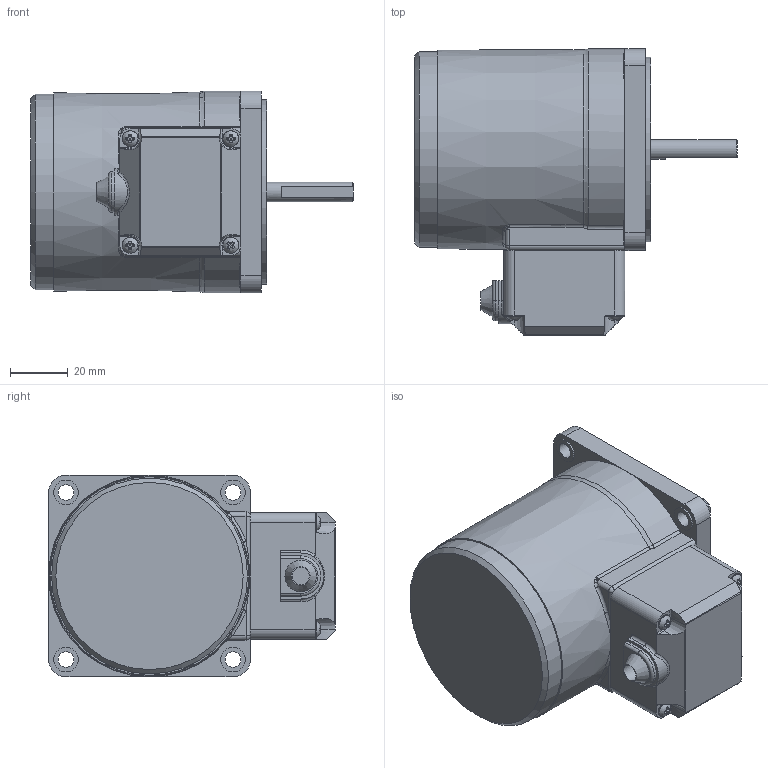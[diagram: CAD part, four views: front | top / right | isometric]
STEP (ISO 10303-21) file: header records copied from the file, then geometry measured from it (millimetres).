
FILE_DESCRIPTION((''),'2;1');
FILE_NAME('D:\STP파일\15W MOTOR\T BOX TYPE\S7R15D-T.stp','2013-05-20T16:31:11',('leebh'),(''),'Autodesk Inventor 2011','Autodesk Inventor 2011','');
FILE_SCHEMA(('AUTOMOTIVE_DESIGN { 1 0 10303 214 1 1 1 1 }'));
Length unit declared in the file: millimetre
Products named in the file (1): 부품2
Bounding box: 112 x 99.5 x 70 mm (x, y, z)
Volume: 344071.3 mm3; surface area: 44240 mm2
Topology: 1 solids, 6 shells, 308 faces, 792 edges, 506 vertices
Faces by surface type: plane 145, cylinder 96, bspline 35, torus 18, cone 12, sphere 2
Full cylindrical faces by diameter (mm): 3 x4, 3.5 x4, 3.8 x4, 5.5 x4, 5.6 x4, 6.7 x1, 8 x1, 8.5 x4, 28 x1, 64 x1, 68 x1
Entity records: 10345 total; most frequent: CARTESIAN_POINT 2983, ORIENTED_EDGE 1456, DIRECTION 1423, EDGE_CURVE 728, AXIS2_PLACEMENT_3D 542, VERTEX_POINT 494, EDGE_LOOP 392, VECTOR 339
